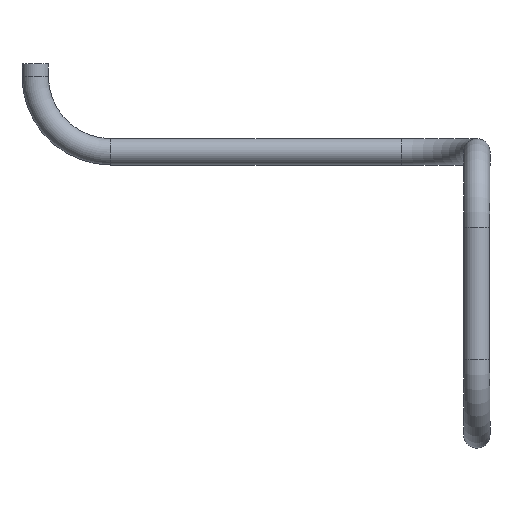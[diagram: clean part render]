
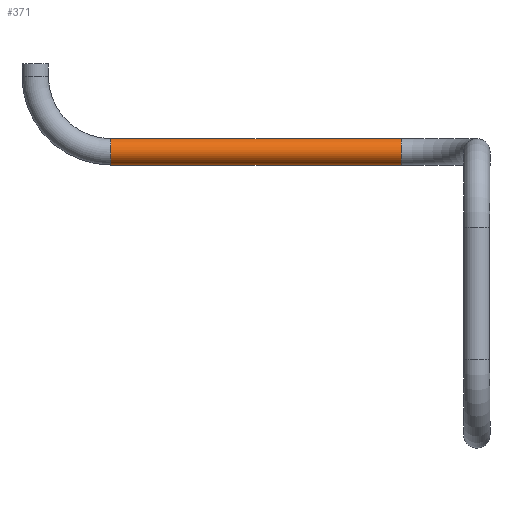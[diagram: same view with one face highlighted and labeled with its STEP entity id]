
A CAD part, left-side view. The second image highlights one B-rep face of the part: STEP entity #371.
In plain terms, the highlighted cylindrical face has radius 0.525 mm (diameter 1.05 mm), a full revolution.
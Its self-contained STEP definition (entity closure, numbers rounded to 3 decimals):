
#305 = TOROIDAL_SURFACE('',#306,3.,0.525);
#306 = AXIS2_PLACEMENT_3D('',#307,#308,#309);
#307 = CARTESIAN_POINT('',(-1.73,-23.99,-9.5));
#308 = DIRECTION('',(-0.,0.,1.));
#309 = DIRECTION('',(0.,-1.,0.));
#322 = VERTEX_POINT('',#323);
#323 = CARTESIAN_POINT('',(1.27,-23.99,-8.975));
#344 = EDGE_CURVE('',#322,#322,#345,.T.);
#345 = SURFACE_CURVE('',#346,(#351,#358),.PCURVE_S1.);
#346 = CIRCLE('',#347,0.525);
#347 = AXIS2_PLACEMENT_3D('',#348,#349,#350);
#348 = CARTESIAN_POINT('',(1.27,-23.99,-9.5));
#349 = DIRECTION('',(0.,-1.,0.));
#350 = DIRECTION('',(1.,0.,0.));
#351 = PCURVE('',#305,#352);
#352 = DEFINITIONAL_REPRESENTATION('',(#353),#357);
#353 = LINE('',#354,#355);
#354 = CARTESIAN_POINT('',(1.571,0.));
#355 = VECTOR('',#356,1.);
#356 = DIRECTION('',(0.,1.));
#357 = ( GEOMETRIC_REPRESENTATION_CONTEXT(2) 
PARAMETRIC_REPRESENTATION_CONTEXT() REPRESENTATION_CONTEXT('2D SPACE',''
  ) );
#358 = PCURVE('',#359,#364);
#359 = CYLINDRICAL_SURFACE('',#360,0.525);
#360 = AXIS2_PLACEMENT_3D('',#361,#362,#363);
#361 = CARTESIAN_POINT('',(1.27,-23.99,-9.5));
#362 = DIRECTION('',(0.,1.,0.));
#363 = DIRECTION('',(0.,-0.,1.));
#364 = DEFINITIONAL_REPRESENTATION('',(#365),#368);
#365 = B_SPLINE_CURVE_WITH_KNOTS('',1,(#366,#367),.UNSPECIFIED.,.F.,.F.,
  (2,2),(1.571,7.854),.PIECEWISE_BEZIER_KNOTS.);
#366 = CARTESIAN_POINT('',(6.283,0.));
#367 = CARTESIAN_POINT('',(0.,0.));
#368 = ( GEOMETRIC_REPRESENTATION_CONTEXT(2) 
PARAMETRIC_REPRESENTATION_CONTEXT() REPRESENTATION_CONTEXT('2D SPACE',''
  ) );
#371 = ADVANCED_FACE('',(#372),#359,.T.);
#372 = FACE_BOUND('',#373,.T.);
#373 = EDGE_LOOP('',(#374,#396,#422,#423));
#374 = ORIENTED_EDGE('',*,*,#375,.T.);
#375 = EDGE_CURVE('',#322,#376,#378,.T.);
#376 = VERTEX_POINT('',#377);
#377 = CARTESIAN_POINT('',(1.27,-12.428,-8.975));
#378 = SEAM_CURVE('',#379,(#383,#389),.PCURVE_S1.);
#379 = LINE('',#380,#381);
#380 = CARTESIAN_POINT('',(1.27,-23.99,-8.975));
#381 = VECTOR('',#382,1.);
#382 = DIRECTION('',(0.,1.,0.));
#383 = PCURVE('',#359,#384);
#384 = DEFINITIONAL_REPRESENTATION('',(#385),#388);
#385 = B_SPLINE_CURVE_WITH_KNOTS('',1,(#386,#387),.UNSPECIFIED.,.F.,.F.,
  (2,2),(0.,11.562),.PIECEWISE_BEZIER_KNOTS.);
#386 = CARTESIAN_POINT('',(6.283,0.));
#387 = CARTESIAN_POINT('',(6.283,11.562));
#388 = ( GEOMETRIC_REPRESENTATION_CONTEXT(2) 
PARAMETRIC_REPRESENTATION_CONTEXT() REPRESENTATION_CONTEXT('2D SPACE',''
  ) );
#389 = PCURVE('',#359,#390);
#390 = DEFINITIONAL_REPRESENTATION('',(#391),#395);
#391 = LINE('',#392,#393);
#392 = CARTESIAN_POINT('',(0.,0.));
#393 = VECTOR('',#394,1.);
#394 = DIRECTION('',(0.,1.));
#395 = ( GEOMETRIC_REPRESENTATION_CONTEXT(2) 
PARAMETRIC_REPRESENTATION_CONTEXT() REPRESENTATION_CONTEXT('2D SPACE',''
  ) );
#396 = ORIENTED_EDGE('',*,*,#397,.F.);
#397 = EDGE_CURVE('',#376,#376,#398,.T.);
#398 = SURFACE_CURVE('',#399,(#404,#411),.PCURVE_S1.);
#399 = CIRCLE('',#400,0.525);
#400 = AXIS2_PLACEMENT_3D('',#401,#402,#403);
#401 = CARTESIAN_POINT('',(1.27,-12.428,-9.5));
#402 = DIRECTION('',(0.,1.,0.));
#403 = DIRECTION('',(0.,-0.,1.));
#404 = PCURVE('',#359,#405);
#405 = DEFINITIONAL_REPRESENTATION('',(#406),#410);
#406 = LINE('',#407,#408);
#407 = CARTESIAN_POINT('',(0.,11.562));
#408 = VECTOR('',#409,1.);
#409 = DIRECTION('',(1.,0.));
#410 = ( GEOMETRIC_REPRESENTATION_CONTEXT(2) 
PARAMETRIC_REPRESENTATION_CONTEXT() REPRESENTATION_CONTEXT('2D SPACE',''
  ) );
#411 = PCURVE('',#412,#417);
#412 = TOROIDAL_SURFACE('',#413,3.,0.525);
#413 = AXIS2_PLACEMENT_3D('',#414,#415,#416);
#414 = CARTESIAN_POINT('',(1.27,-12.428,-6.5));
#415 = DIRECTION('',(1.,-0.,0.));
#416 = DIRECTION('',(0.,0.,-1.));
#417 = DEFINITIONAL_REPRESENTATION('',(#418),#421);
#418 = B_SPLINE_CURVE_WITH_KNOTS('',1,(#419,#420),.UNSPECIFIED.,.F.,.F.,
  (2,2),(0.,6.283),.PIECEWISE_BEZIER_KNOTS.);
#419 = CARTESIAN_POINT('',(0.,9.425));
#420 = CARTESIAN_POINT('',(0.,3.142));
#421 = ( GEOMETRIC_REPRESENTATION_CONTEXT(2) 
PARAMETRIC_REPRESENTATION_CONTEXT() REPRESENTATION_CONTEXT('2D SPACE',''
  ) );
#422 = ORIENTED_EDGE('',*,*,#375,.F.);
#423 = ORIENTED_EDGE('',*,*,#344,.F.);
